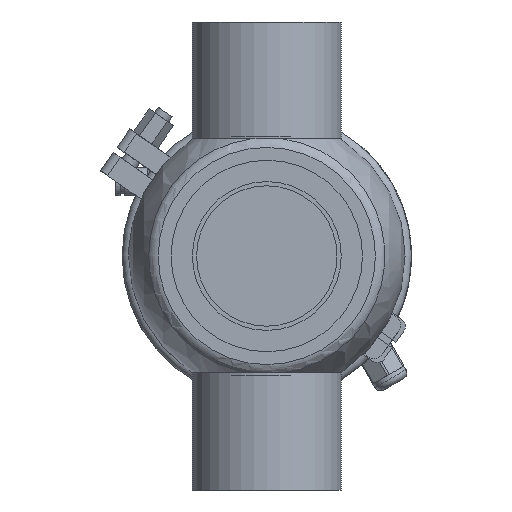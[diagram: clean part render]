
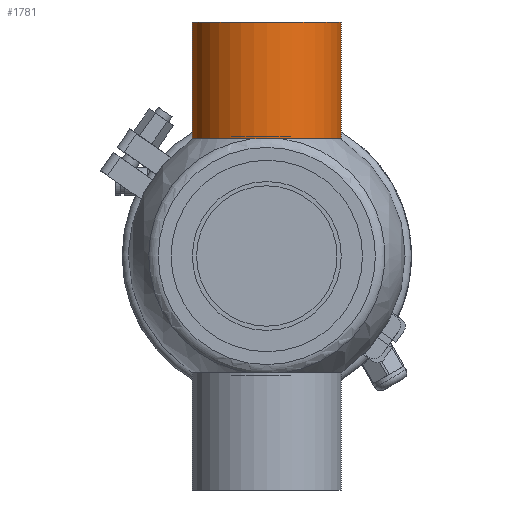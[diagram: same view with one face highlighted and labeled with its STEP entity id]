
A CAD part, front view. The second image highlights one B-rep face of the part: STEP entity #1781.
In plain terms, the highlighted cylindrical face has radius 35 mm (diameter 70 mm), a full revolution.
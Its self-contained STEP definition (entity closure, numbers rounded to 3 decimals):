
#1362 = CARTESIAN_POINT ( 'NONE',  ( 0., 0., 0. ) ) ;
#1781 = ADVANCED_FACE ( 'NONE', ( #29741, #57878 ), #48538, .T. ) ;
#3636 = VERTEX_POINT ( 'NONE', #54878 ) ;
#6136 = CARTESIAN_POINT ( 'NONE',  ( 55., 0., 35. ) ) ;
#10420 = ORIENTED_EDGE ( 'NONE', *, *, #55947, .T. ) ;
#16329 = DIRECTION ( 'NONE',  ( -1., 0., 0. ) ) ;
#17172 = AXIS2_PLACEMENT_3D ( 'NONE', #20955, #16329, #20067 ) ;
#20067 = DIRECTION ( 'NONE',  ( 0., 0., 1. ) ) ;
#20955 = CARTESIAN_POINT ( 'NONE',  ( 110., 0., 0. ) ) ;
#20989 = VERTEX_POINT ( 'NONE', #6136 ) ;
#25444 = CIRCLE ( 'NONE', #36291, 35. ) ;
#27045 = EDGE_LOOP ( 'NONE', ( #59679 ) ) ;
#29156 = CARTESIAN_POINT ( 'NONE',  ( 55., 0., 0. ) ) ;
#29741 = FACE_OUTER_BOUND ( 'NONE', #41120, .T. ) ;
#32861 = DIRECTION ( 'NONE',  ( 0., 0., 1. ) ) ;
#36291 = AXIS2_PLACEMENT_3D ( 'NONE', #29156, #56335, #42157 ) ;
#39355 = DIRECTION ( 'NONE',  ( -1., 0., 0. ) ) ;
#39824 = CIRCLE ( 'NONE', #17172, 35. ) ;
#41120 = EDGE_LOOP ( 'NONE', ( #10420 ) ) ;
#42157 = DIRECTION ( 'NONE',  ( 0., 0., 1. ) ) ;
#43755 = AXIS2_PLACEMENT_3D ( 'NONE', #1362, #39355, #32861 ) ;
#48538 = CYLINDRICAL_SURFACE ( 'NONE', #43755, 35. ) ;
#49370 = EDGE_CURVE ( 'NONE', #20989, #20989, #25444, .T. ) ;
#54878 = CARTESIAN_POINT ( 'NONE',  ( 110., 0., 35. ) ) ;
#55947 = EDGE_CURVE ( 'NONE', #3636, #3636, #39824, .T. ) ;
#56335 = DIRECTION ( 'NONE',  ( -1., 0., 0. ) ) ;
#57878 = FACE_OUTER_BOUND ( 'NONE', #27045, .T. ) ;
#59679 = ORIENTED_EDGE ( 'NONE', *, *, #49370, .F. ) ;
